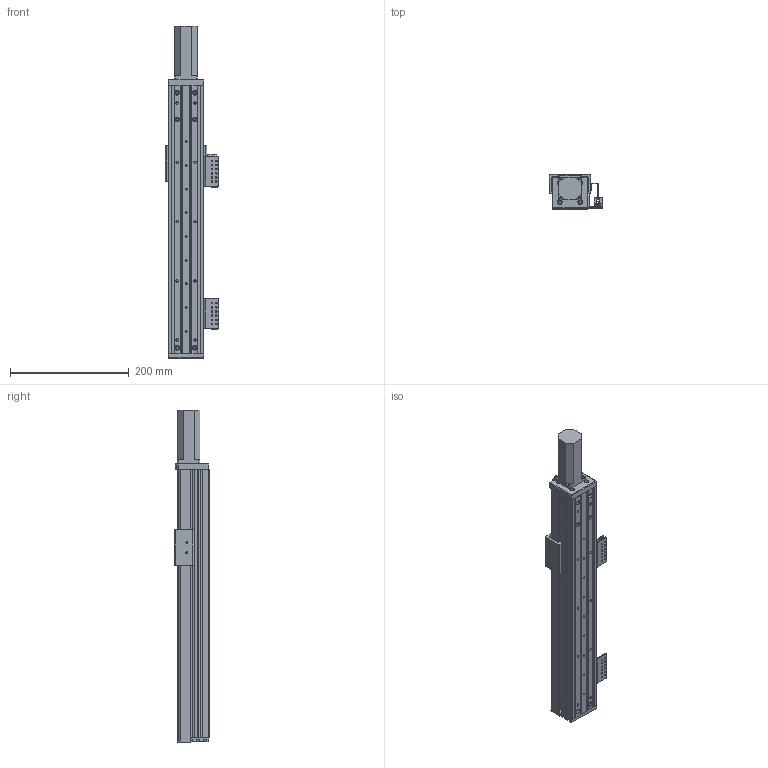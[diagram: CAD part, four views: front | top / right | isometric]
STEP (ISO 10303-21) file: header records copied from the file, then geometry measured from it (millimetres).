
FILE_DESCRIPTION (( 'STEP AP203' ), '1' );
FILE_NAME ('RY60FB-L1210-300-MK.SLDASM_250.step', '2021-02-22T08:25:30', ( '盈信电脑' ), ( '东莞市道滘镇水果街19号' ), 'SwSTEP 2.0', 'SolidWorks 2012', '' );
FILE_SCHEMA (( 'CONFIG_CONTROL_DESIGN' ));
Length unit declared in the file: millimetre
Products named in the file (14): RY60FB-674嫖萇耀輸; RY60FB-L1210-300-MK.SLDASM_250; RY80俋离覜茼え; 覜茼ん674; 侂狟100W; RY60FB-感应器674光电安装座; RY60FB綴裔啣; RY60FB前盖板100(M3); 滅袉蝶18-20; RY60FB-臏賑輸; RY60FB-300-奻裔-MK_250; 滅袉蝶18-10; RY60FB-300-菁釱-MK_250
Assembly tree (18 placements, depth 3):
  RY60FB-L1210-300-MK.SLDASM_250
    RY60FB-300-菁釱-MK_250
    RY60FB-臏賑輸
    滅袉蝶18-20  x2
    滅袉蝶18-10  x2
    RY60FB-300-奻裔-MK_250
    RY60FB前盖板100(M3)
    侂狟100W
    RY60FB綴裔啣
    RY60FB-674嫖萇耀輸
      RY60FB-感应器674光电安装座
      覜茼ん674  x2
    RY80俋离覜茼え
    RY60FB-674嫖萇耀輸
      RY60FB-感应器674光电安装座
      覜茼ん674
Bounding box: 90 x 58.5 x 560 mm (x, y, z)
Volume: 666198.4 mm3; surface area: 347510.9 mm2
Topology: 16 solids, 16 shells, 951 faces, 2620 edges, 1691 vertices
Faces by surface type: plane 474, cylinder 410, cone 67
Entity records: 26620 total; most frequent: CARTESIAN_POINT 4997, DIRECTION 4234, ORIENTED_EDGE 4140, EDGE_CURVE 2070, AXIS2_PLACEMENT_3D 1488, VERTEX_POINT 1347, VECTOR 1258, LINE 1258
